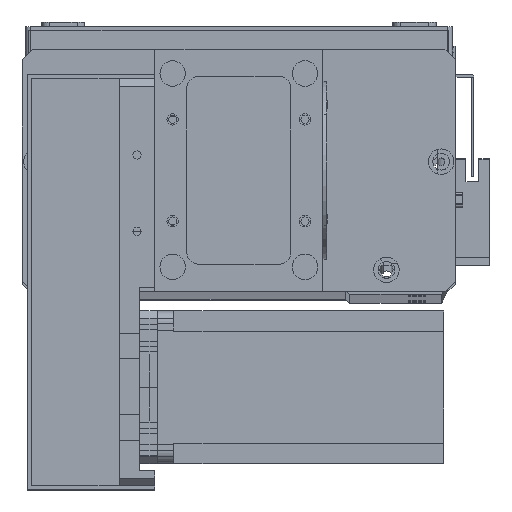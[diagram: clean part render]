
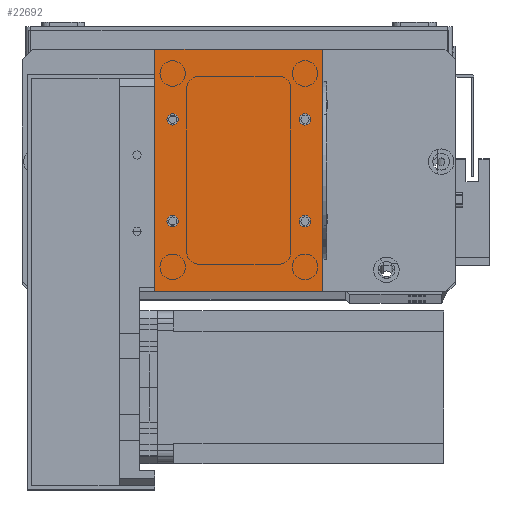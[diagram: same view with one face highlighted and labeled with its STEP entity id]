
A CAD part, top view. The second image highlights one B-rep face of the part: STEP entity #22692.
In plain terms, the highlighted planar face has unit normal (0, 0, 1).
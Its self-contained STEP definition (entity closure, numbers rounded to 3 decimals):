
#322 = DIRECTION ( 'NONE',  ( 0., 0., 1. ) ) ;
#559 = AXIS2_PLACEMENT_3D ( 'NONE', #15691, #322, #18265 ) ;
#570 = VERTEX_POINT ( 'NONE', #32479 ) ;
#611 = CARTESIAN_POINT ( 'NONE',  ( 59., 67.5, 2. ) ) ;
#1021 = ORIENTED_EDGE ( 'NONE', *, *, #19979, .T. ) ;
#1071 = AXIS2_PLACEMENT_3D ( 'NONE', #32042, #16601, #1251 ) ;
#1104 = DIRECTION ( 'NONE',  ( 0., 0., 1. ) ) ;
#1180 = DIRECTION ( 'NONE',  ( 0., 0., 1. ) ) ;
#1251 = DIRECTION ( 'NONE',  ( 1., 0., 0. ) ) ;
#1270 = EDGE_CURVE ( 'NONE', #12976, #29536, #24456, .T. ) ;
#1505 = AXIS2_PLACEMENT_3D ( 'NONE', #16439, #1104, #19030 ) ;
#1636 = ORIENTED_EDGE ( 'NONE', *, *, #1270, .F. ) ;
#1666 = DIRECTION ( 'NONE',  ( 0., 0., -1. ) ) ;
#1777 = DIRECTION ( 'NONE',  ( -1., 0., 0. ) ) ;
#2183 = VECTOR ( 'NONE', #13505, 1000. ) ;
#2481 = FACE_BOUND ( 'NONE', #14275, .T. ) ;
#2967 = CARTESIAN_POINT ( 'NONE',  ( 61.25, 27.5, 2. ) ) ;
#3213 = DIRECTION ( 'NONE',  ( 1., 0., 0. ) ) ;
#3578 = CARTESIAN_POINT ( 'NONE',  ( 59., 67.5, 2. ) ) ;
#3657 = CARTESIAN_POINT ( 'NONE',  ( 0., 0., 2. ) ) ;
#3869 = AXIS2_PLACEMENT_3D ( 'NONE', #3578, #21486, #6157 ) ;
#4105 = FACE_BOUND ( 'NONE', #25345, .T. ) ;
#4110 = EDGE_CURVE ( 'NONE', #29536, #12976, #12663, .T. ) ;
#4508 = ORIENTED_EDGE ( 'NONE', *, *, #21963, .F. ) ;
#4623 = CARTESIAN_POINT ( 'NONE',  ( 0., 0., 2. ) ) ;
#4626 = CARTESIAN_POINT ( 'NONE',  ( 9.25, 67.5, 2. ) ) ;
#5273 = ORIENTED_EDGE ( 'NONE', *, *, #26571, .T. ) ;
#6157 = DIRECTION ( 'NONE',  ( 1., 0., 0. ) ) ;
#6477 = DIRECTION ( 'NONE',  ( 0., 0., 1. ) ) ;
#7305 = VECTOR ( 'NONE', #32411, 1000. ) ;
#7966 = CARTESIAN_POINT ( 'NONE',  ( 56.75, 27.5, 2. ) ) ;
#8237 = LINE ( 'NONE', #28866, #2183 ) ;
#8309 = EDGE_LOOP ( 'NONE', ( #1021, #5273, #32656, #21990 ) ) ;
#8600 = DIRECTION ( 'NONE',  ( 0., 0., 1. ) ) ;
#9780 = VERTEX_POINT ( 'NONE', #3657 ) ;
#9817 = DIRECTION ( 'NONE',  ( 1., 0., 0. ) ) ;
#11837 = CARTESIAN_POINT ( 'NONE',  ( 66., 95., 2. ) ) ;
#11985 = PLANE ( 'NONE',  #21790 ) ;
#12411 = VECTOR ( 'NONE', #29990, 1000. ) ;
#12663 = CIRCLE ( 'NONE', #3869, 2.25 ) ;
#12772 = EDGE_CURVE ( 'NONE', #26381, #570, #24294, .T. ) ;
#12976 = VERTEX_POINT ( 'NONE', #33081 ) ;
#13505 = DIRECTION ( 'NONE',  ( 0., -1., 0. ) ) ;
#13895 = CIRCLE ( 'NONE', #1505, 2.25 ) ;
#14026 = LINE ( 'NONE', #17075, #12411 ) ;
#14275 = EDGE_LOOP ( 'NONE', ( #1636, #19818 ) ) ;
#14403 = CARTESIAN_POINT ( 'NONE',  ( 66., 0., 2. ) ) ;
#14549 = CARTESIAN_POINT ( 'NONE',  ( 0., 0., 2. ) ) ;
#14580 = EDGE_CURVE ( 'NONE', #570, #26381, #23341, .T. ) ;
#14664 = EDGE_CURVE ( 'NONE', #31850, #24625, #21715, .T. ) ;
#14681 = ORIENTED_EDGE ( 'NONE', *, *, #18894, .F. ) ;
#15155 = CIRCLE ( 'NONE', #30552, 2.25 ) ;
#15691 = CARTESIAN_POINT ( 'NONE',  ( 7., 27.5, 2. ) ) ;
#16108 = FACE_OUTER_BOUND ( 'NONE', #8309, .T. ) ;
#16280 = CARTESIAN_POINT ( 'NONE',  ( 4.75, 67.5, 2. ) ) ;
#16439 = CARTESIAN_POINT ( 'NONE',  ( 59., 27.5, 2. ) ) ;
#16523 = CARTESIAN_POINT ( 'NONE',  ( 7., 67.5, 2. ) ) ;
#16601 = DIRECTION ( 'NONE',  ( 0., 0., 1. ) ) ;
#16699 = AXIS2_PLACEMENT_3D ( 'NONE', #21820, #6477, #24429 ) ;
#17075 = CARTESIAN_POINT ( 'NONE',  ( 0., 95., 2. ) ) ;
#17515 = VERTEX_POINT ( 'NONE', #7966 ) ;
#18265 = DIRECTION ( 'NONE',  ( 1., 0., 0. ) ) ;
#18426 = EDGE_CURVE ( 'NONE', #28609, #27923, #32026, .T. ) ;
#18544 = DIRECTION ( 'NONE',  ( 0., 0., 1. ) ) ;
#18894 = EDGE_CURVE ( 'NONE', #17515, #23188, #13895, .T. ) ;
#19030 = DIRECTION ( 'NONE',  ( 1., 0., 0. ) ) ;
#19113 = DIRECTION ( 'NONE',  ( 1., 0., 0. ) ) ;
#19818 = ORIENTED_EDGE ( 'NONE', *, *, #4110, .F. ) ;
#19979 = EDGE_CURVE ( 'NONE', #26828, #9780, #8237, .T. ) ;
#21486 = DIRECTION ( 'NONE',  ( 0., 0., 1. ) ) ;
#21715 = LINE ( 'NONE', #14403, #7305 ) ;
#21790 = AXIS2_PLACEMENT_3D ( 'NONE', #14549, #1666, #1777 ) ;
#21820 = CARTESIAN_POINT ( 'NONE',  ( 7., 27.5, 2. ) ) ;
#21963 = EDGE_CURVE ( 'NONE', #23188, #17515, #25020, .T. ) ;
#21990 = ORIENTED_EDGE ( 'NONE', *, *, #24658, .T. ) ;
#22004 = AXIS2_PLACEMENT_3D ( 'NONE', #23935, #8600, #26498 ) ;
#22304 = ORIENTED_EDGE ( 'NONE', *, *, #18426, .F. ) ;
#22692 = ADVANCED_FACE ( 'NONE', ( #4105, #2481, #22946, #29764, #16108 ), #11985, .F. ) ;
#22877 = AXIS2_PLACEMENT_3D ( 'NONE', #611, #18544, #3213 ) ;
#22946 = FACE_BOUND ( 'NONE', #24365, .T. ) ;
#23188 = VERTEX_POINT ( 'NONE', #2967 ) ;
#23341 = CIRCLE ( 'NONE', #16699, 2.25 ) ;
#23935 = CARTESIAN_POINT ( 'NONE',  ( 59., 27.5, 2. ) ) ;
#24294 = CIRCLE ( 'NONE', #559, 2.25 ) ;
#24359 = VECTOR ( 'NONE', #9817, 1000. ) ;
#24365 = EDGE_LOOP ( 'NONE', ( #4508, #14681 ) ) ;
#24389 = CARTESIAN_POINT ( 'NONE',  ( 9.25, 27.5, 2. ) ) ;
#24429 = DIRECTION ( 'NONE',  ( 1., 0., 0. ) ) ;
#24456 = CIRCLE ( 'NONE', #22877, 2.25 ) ;
#24625 = VERTEX_POINT ( 'NONE', #11837 ) ;
#24658 = EDGE_CURVE ( 'NONE', #24625, #26828, #14026, .T. ) ;
#25020 = CIRCLE ( 'NONE', #22004, 2.25 ) ;
#25345 = EDGE_LOOP ( 'NONE', ( #22304, #29087 ) ) ;
#25703 = EDGE_CURVE ( 'NONE', #27923, #28609, #15155, .T. ) ;
#26083 = CARTESIAN_POINT ( 'NONE',  ( 66., 0., 2. ) ) ;
#26381 = VERTEX_POINT ( 'NONE', #24389 ) ;
#26498 = DIRECTION ( 'NONE',  ( 1., 0., 0. ) ) ;
#26571 = EDGE_CURVE ( 'NONE', #9780, #31850, #31194, .T. ) ;
#26828 = VERTEX_POINT ( 'NONE', #28946 ) ;
#27028 = EDGE_LOOP ( 'NONE', ( #31014, #30206 ) ) ;
#27923 = VERTEX_POINT ( 'NONE', #16280 ) ;
#28609 = VERTEX_POINT ( 'NONE', #4626 ) ;
#28866 = CARTESIAN_POINT ( 'NONE',  ( 0., 0., 2. ) ) ;
#28946 = CARTESIAN_POINT ( 'NONE',  ( 0., 95., 2. ) ) ;
#29008 = CARTESIAN_POINT ( 'NONE',  ( 56.75, 67.5, 2. ) ) ;
#29087 = ORIENTED_EDGE ( 'NONE', *, *, #25703, .F. ) ;
#29536 = VERTEX_POINT ( 'NONE', #29008 ) ;
#29764 = FACE_BOUND ( 'NONE', #27028, .T. ) ;
#29990 = DIRECTION ( 'NONE',  ( -1., 0., 0. ) ) ;
#30206 = ORIENTED_EDGE ( 'NONE', *, *, #14580, .F. ) ;
#30552 = AXIS2_PLACEMENT_3D ( 'NONE', #16523, #1180, #19113 ) ;
#31014 = ORIENTED_EDGE ( 'NONE', *, *, #12772, .F. ) ;
#31194 = LINE ( 'NONE', #4623, #24359 ) ;
#31850 = VERTEX_POINT ( 'NONE', #26083 ) ;
#32026 = CIRCLE ( 'NONE', #1071, 2.25 ) ;
#32042 = CARTESIAN_POINT ( 'NONE',  ( 7., 67.5, 2. ) ) ;
#32411 = DIRECTION ( 'NONE',  ( 0., 1., 0. ) ) ;
#32479 = CARTESIAN_POINT ( 'NONE',  ( 4.75, 27.5, 2. ) ) ;
#32656 = ORIENTED_EDGE ( 'NONE', *, *, #14664, .T. ) ;
#33081 = CARTESIAN_POINT ( 'NONE',  ( 61.25, 67.5, 2. ) ) ;
